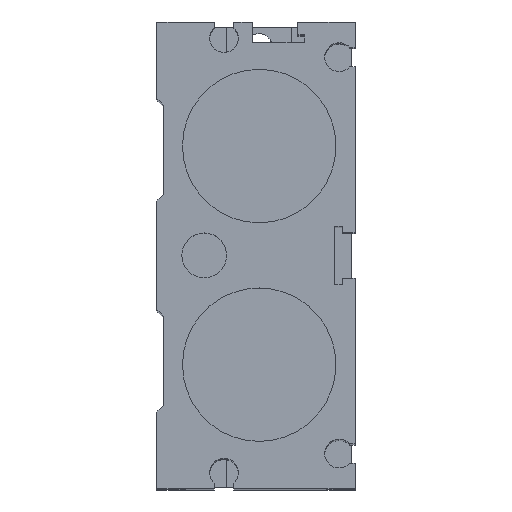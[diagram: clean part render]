
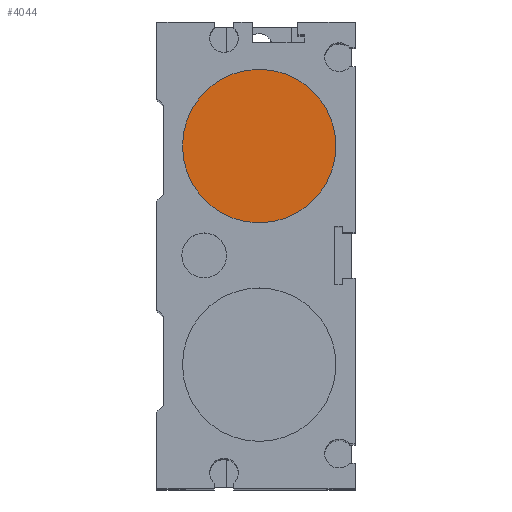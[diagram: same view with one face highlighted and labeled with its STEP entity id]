
A CAD part, top view. The second image highlights one B-rep face of the part: STEP entity #4044.
In plain terms, the highlighted planar face has unit normal (0, 0, 1).
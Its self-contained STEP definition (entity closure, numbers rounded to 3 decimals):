
#4021=CARTESIAN_POINT('',(12.,17.1,181.));
#4022=VERTEX_POINT('',#4021);
#4023=CARTESIAN_POINT('',(0.,17.1,181.));
#4024=DIRECTION('',(0.0,0.0,1.0));
#4025=DIRECTION('',(-1.0,0.0,0.0));
#4026=AXIS2_PLACEMENT_3D('',#4023,#4024,#4025);
#4027=CIRCLE('',#4026,12.);
#4028=EDGE_CURVE('',#4022,#4022,#4027,.T.);
#4036=CARTESIAN_POINT('',(0.,17.1,181.));
#4037=DIRECTION('',(0.0,0.0,-1.0));
#4038=DIRECTION('',(-1.0,0.0,0.0));
#4039=AXIS2_PLACEMENT_3D('',#4036,#4037,#4038);
#4040=PLANE('',#4039);
#4041=ORIENTED_EDGE('',*,*,#4028,.T.);
#4042=EDGE_LOOP('',(#4041));
#4043=FACE_OUTER_BOUND('',#4042,.T.);
#4044=ADVANCED_FACE('',(#4043),#4040,.F.);
